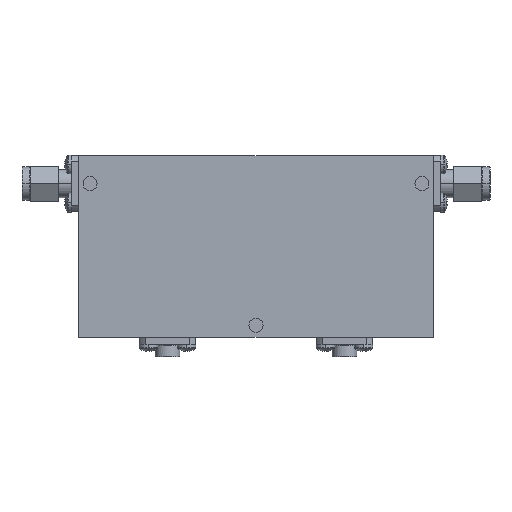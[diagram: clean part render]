
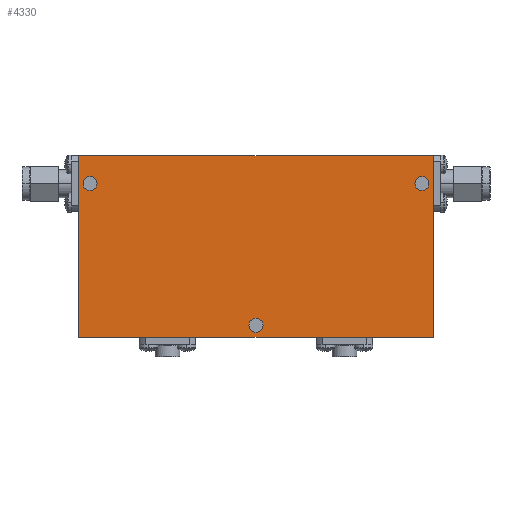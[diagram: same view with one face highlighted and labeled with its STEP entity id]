
A CAD part, top view. The second image highlights one B-rep face of the part: STEP entity #4330.
In plain terms, the highlighted planar face has unit normal (0, 0, 1).
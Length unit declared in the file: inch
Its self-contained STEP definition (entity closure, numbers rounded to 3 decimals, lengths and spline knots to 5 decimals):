
#79 = CARTESIAN_POINT ( 'NONE',  ( -1.58, 0.81, 0.35 ) ) ;
#109 = FACE_BOUND ( 'NONE', #770, .T. ) ;
#300 = DIRECTION ( 'NONE',  ( 1., 0., 0. ) ) ;
#314 = CIRCLE ( 'NONE', #3400, 0.0625 ) ;
#402 = ORIENTED_EDGE ( 'NONE', *, *, #833, .T. ) ;
#418 = AXIS2_PLACEMENT_3D ( 'NONE', #4158, #1422, #2848 ) ;
#428 = AXIS2_PLACEMENT_3D ( 'NONE', #4110, #2105, #3452 ) ;
#454 = CARTESIAN_POINT ( 'NONE',  ( 0.0625, -0.705, 0.35 ) ) ;
#458 = CIRCLE ( 'NONE', #418, 0.0625 ) ;
#500 = LINE ( 'NONE', #79, #2793 ) ;
#539 = CIRCLE ( 'NONE', #2911, 0.0625 ) ;
#615 = DIRECTION ( 'NONE',  ( 1., 0., 0. ) ) ;
#616 = VERTEX_POINT ( 'NONE', #2354 ) ;
#631 = LINE ( 'NONE', #4205, #2955 ) ;
#672 = DIRECTION ( 'NONE',  ( 1., 0., 0. ) ) ;
#675 = ORIENTED_EDGE ( 'NONE', *, *, #1706, .T. ) ;
#686 = CARTESIAN_POINT ( 'NONE',  ( 1.4175, 0.56, 0.35 ) ) ;
#734 = VERTEX_POINT ( 'NONE', #454 ) ;
#770 = EDGE_LOOP ( 'NONE', ( #3515, #4398 ) ) ;
#833 = EDGE_CURVE ( 'NONE', #2631, #1501, #3618, .T. ) ;
#857 = CARTESIAN_POINT ( 'NONE',  ( 0., 0., 0.35 ) ) ;
#960 = DIRECTION ( 'NONE',  ( 0., 0., 1. ) ) ;
#1062 = EDGE_CURVE ( 'NONE', #1572, #734, #2617, .T. ) ;
#1088 = ORIENTED_EDGE ( 'NONE', *, *, #1537, .F. ) ;
#1109 = DIRECTION ( 'NONE',  ( 1., 0., 0. ) ) ;
#1304 = CARTESIAN_POINT ( 'NONE',  ( -1.4175, 0.56, 0.35 ) ) ;
#1399 = DIRECTION ( 'NONE',  ( -1., 0., 0. ) ) ;
#1422 = DIRECTION ( 'NONE',  ( 0., 0., 1. ) ) ;
#1438 = ORIENTED_EDGE ( 'NONE', *, *, #4260, .F. ) ;
#1481 = DIRECTION ( 'NONE',  ( 0., 1., 0. ) ) ;
#1495 = CARTESIAN_POINT ( 'NONE',  ( 0., -0.705, 0.35 ) ) ;
#1501 = VERTEX_POINT ( 'NONE', #2089 ) ;
#1531 = CARTESIAN_POINT ( 'NONE',  ( -1.58, 0.81, 0.35 ) ) ;
#1537 = EDGE_CURVE ( 'NONE', #4341, #616, #458, .T. ) ;
#1544 = DIRECTION ( 'NONE',  ( 0., -1., 0. ) ) ;
#1572 = VERTEX_POINT ( 'NONE', #3158 ) ;
#1641 = PLANE ( 'NONE',  #4051 ) ;
#1706 = EDGE_CURVE ( 'NONE', #4351, #4084, #631, .T. ) ;
#1723 = EDGE_CURVE ( 'NONE', #734, #1572, #314, .T. ) ;
#1745 = DIRECTION ( 'NONE',  ( 0., 0., 1. ) ) ;
#1824 = DIRECTION ( 'NONE',  ( 0., 0., 1. ) ) ;
#1836 = AXIS2_PLACEMENT_3D ( 'NONE', #3862, #1745, #672 ) ;
#1978 = FACE_BOUND ( 'NONE', #4134, .T. ) ;
#2001 = VERTEX_POINT ( 'NONE', #686 ) ;
#2044 = CIRCLE ( 'NONE', #428, 0.0625 ) ;
#2089 = CARTESIAN_POINT ( 'NONE',  ( -1.58, -0.81, 0.35 ) ) ;
#2105 = DIRECTION ( 'NONE',  ( 0., 0., 1. ) ) ;
#2172 = DIRECTION ( 'NONE',  ( 1., 0., 0. ) ) ;
#2354 = CARTESIAN_POINT ( 'NONE',  ( -1.5425, 0.56, 0.35 ) ) ;
#2562 = CIRCLE ( 'NONE', #3104, 0.0625 ) ;
#2617 = CIRCLE ( 'NONE', #1836, 0.0625 ) ;
#2624 = VECTOR ( 'NONE', #615, 39.37008 ) ;
#2631 = VERTEX_POINT ( 'NONE', #2650 ) ;
#2650 = CARTESIAN_POINT ( 'NONE',  ( -1.58, 0.81, 0.35 ) ) ;
#2651 = CARTESIAN_POINT ( 'NONE',  ( -1.58, -0.81, 0.35 ) ) ;
#2793 = VECTOR ( 'NONE', #1399, 39.37008 ) ;
#2848 = DIRECTION ( 'NONE',  ( 1., 0., 0. ) ) ;
#2881 = FACE_BOUND ( 'NONE', #4232, .T. ) ;
#2911 = AXIS2_PLACEMENT_3D ( 'NONE', #3933, #4265, #300 ) ;
#2955 = VECTOR ( 'NONE', #1481, 39.37008 ) ;
#2977 = VERTEX_POINT ( 'NONE', #3716 ) ;
#3102 = ORIENTED_EDGE ( 'NONE', *, *, #3585, .T. ) ;
#3104 = AXIS2_PLACEMENT_3D ( 'NONE', #3141, #1824, #1109 ) ;
#3113 = EDGE_CURVE ( 'NONE', #4084, #2631, #500, .T. ) ;
#3134 = EDGE_CURVE ( 'NONE', #2977, #2001, #2044, .T. ) ;
#3141 = CARTESIAN_POINT ( 'NONE',  ( 1.48, 0.56, 0.35 ) ) ;
#3158 = CARTESIAN_POINT ( 'NONE',  ( -0.0625, -0.705, 0.35 ) ) ;
#3231 = DIRECTION ( 'NONE',  ( 1., 0., 0. ) ) ;
#3290 = EDGE_CURVE ( 'NONE', #2001, #2977, #2562, .T. ) ;
#3386 = EDGE_LOOP ( 'NONE', ( #675, #4022, #402, #3102 ) ) ;
#3400 = AXIS2_PLACEMENT_3D ( 'NONE', #1495, #3524, #2172 ) ;
#3452 = DIRECTION ( 'NONE',  ( 1., 0., 0. ) ) ;
#3459 = LINE ( 'NONE', #2651, #2624 ) ;
#3470 = ORIENTED_EDGE ( 'NONE', *, *, #3134, .F. ) ;
#3481 = ORIENTED_EDGE ( 'NONE', *, *, #3290, .F. ) ;
#3505 = VECTOR ( 'NONE', #1544, 39.37008 ) ;
#3515 = ORIENTED_EDGE ( 'NONE', *, *, #1723, .F. ) ;
#3524 = DIRECTION ( 'NONE',  ( 0., 0., 1. ) ) ;
#3585 = EDGE_CURVE ( 'NONE', #1501, #4351, #3459, .T. ) ;
#3618 = LINE ( 'NONE', #1531, #3505 ) ;
#3716 = CARTESIAN_POINT ( 'NONE',  ( 1.5425, 0.56, 0.35 ) ) ;
#3787 = FACE_OUTER_BOUND ( 'NONE', #3386, .T. ) ;
#3862 = CARTESIAN_POINT ( 'NONE',  ( 0., -0.705, 0.35 ) ) ;
#3933 = CARTESIAN_POINT ( 'NONE',  ( -1.48, 0.56, 0.35 ) ) ;
#4005 = CARTESIAN_POINT ( 'NONE',  ( 1.58, -0.81, 0.35 ) ) ;
#4022 = ORIENTED_EDGE ( 'NONE', *, *, #3113, .T. ) ;
#4051 = AXIS2_PLACEMENT_3D ( 'NONE', #857, #960, #3231 ) ;
#4084 = VERTEX_POINT ( 'NONE', #4319 ) ;
#4110 = CARTESIAN_POINT ( 'NONE',  ( 1.48, 0.56, 0.35 ) ) ;
#4134 = EDGE_LOOP ( 'NONE', ( #3470, #3481 ) ) ;
#4158 = CARTESIAN_POINT ( 'NONE',  ( -1.48, 0.56, 0.35 ) ) ;
#4205 = CARTESIAN_POINT ( 'NONE',  ( 1.58, 0.81, 0.35 ) ) ;
#4232 = EDGE_LOOP ( 'NONE', ( #1088, #1438 ) ) ;
#4260 = EDGE_CURVE ( 'NONE', #616, #4341, #539, .T. ) ;
#4265 = DIRECTION ( 'NONE',  ( 0., 0., 1. ) ) ;
#4319 = CARTESIAN_POINT ( 'NONE',  ( 1.58, 0.81, 0.35 ) ) ;
#4330 = ADVANCED_FACE ( 'NONE', ( #1978, #109, #2881, #3787 ), #1641, .T. ) ;
#4341 = VERTEX_POINT ( 'NONE', #1304 ) ;
#4351 = VERTEX_POINT ( 'NONE', #4005 ) ;
#4398 = ORIENTED_EDGE ( 'NONE', *, *, #1062, .F. ) ;
